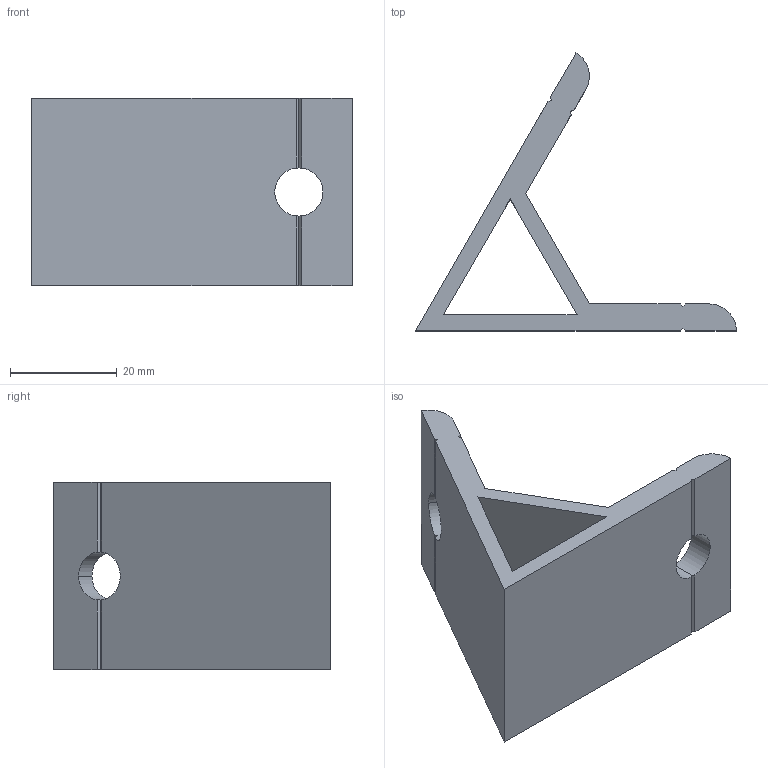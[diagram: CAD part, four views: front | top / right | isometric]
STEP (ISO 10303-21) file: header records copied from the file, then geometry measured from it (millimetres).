
FILE_DESCRIPTION (( 'STEP AP203' ), '1' );
FILE_NAME ('WA3560-8.STEP', '2024-02-19T06:16:21', ( '' ), ( '' ), 'SwSTEP 2.0', 'SolidWorks 2022', '' );
FILE_SCHEMA (( 'CONFIG_CONTROL_DESIGN' ));
Length unit declared in the file: millimetre
Products named in the file (1): WA3560-8
Bounding box: 60 x 51.96 x 35 mm (x, y, z)
Volume: 17591.9 mm3; surface area: 10894.4 mm2
Topology: 1 solids, 1 shells, 37 faces, 113 edges, 74 vertices
Faces by surface type: plane 30, cylinder 7
Entity records: 1342 total; most frequent: CARTESIAN_POINT 273, ORIENTED_EDGE 226, DIRECTION 191, EDGE_CURVE 113, LINE 79, VECTOR 79, VERTEX_POINT 74, AXIS2_PLACEMENT_3D 56
